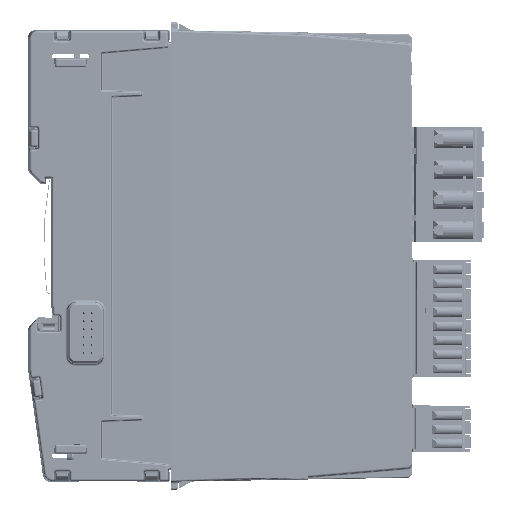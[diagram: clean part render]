
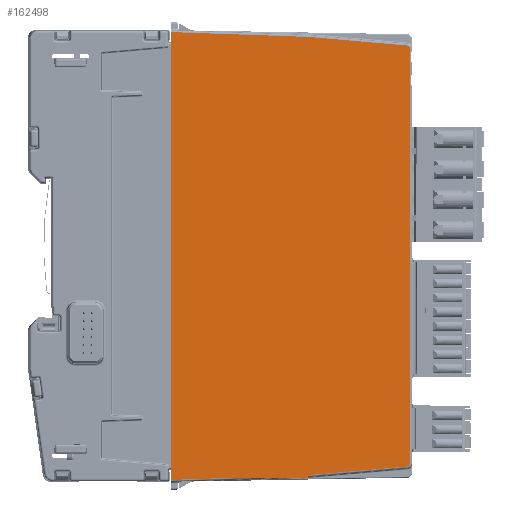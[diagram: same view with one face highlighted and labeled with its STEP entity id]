
A CAD part, left-side view. The second image highlights one B-rep face of the part: STEP entity #162498.
In plain terms, the highlighted planar face has unit normal (-1, -0.018, 0).
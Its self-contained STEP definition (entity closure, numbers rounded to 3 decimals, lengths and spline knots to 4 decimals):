
#15553=FACE_OUTER_BOUND('',#24590,.T.);
#24590=EDGE_LOOP('',(#136945,#136946,#136947,#136948,#136949,#136950,#136951,
#136952,#136953,#136954,#136955,#136956,#136957));
#40469=LINE('',#277757,#56843);
#40482=LINE('',#277829,#56856);
#40539=LINE('',#278057,#56913);
#40856=LINE('',#279281,#57230);
#40857=LINE('',#279283,#57231);
#40858=LINE('',#279287,#57232);
#40859=LINE('',#279291,#57233);
#40860=LINE('',#279293,#57234);
#40861=LINE('',#279295,#57235);
#40862=LINE('',#279297,#57236);
#40863=LINE('',#279298,#57237);
#56843=VECTOR('',#213915,0.3937);
#56856=VECTOR('',#213956,0.3937);
#56913=VECTOR('',#214151,39.3701);
#57230=VECTOR('',#214876,39.3701);
#57231=VECTOR('',#214877,39.3701);
#57232=VECTOR('',#214880,39.3701);
#57233=VECTOR('',#214883,39.3701);
#57234=VECTOR('',#214884,39.3701);
#57235=VECTOR('',#214885,39.3701);
#57236=VECTOR('',#214886,39.3701);
#57237=VECTOR('',#214887,39.3701);
#59600=ELLIPSE('',#174981,0.0315,0.0315);
#59601=ELLIPSE('',#174982,0.0315,0.0315);
#72626=VERTEX_POINT('',#277753);
#72628=VERTEX_POINT('',#277756);
#72650=VERTEX_POINT('',#277824);
#72708=VERTEX_POINT('',#278056);
#73023=VERTEX_POINT('',#279280);
#73024=VERTEX_POINT('',#279282);
#73025=VERTEX_POINT('',#279284);
#73026=VERTEX_POINT('',#279286);
#73027=VERTEX_POINT('',#279288);
#73028=VERTEX_POINT('',#279290);
#73029=VERTEX_POINT('',#279292);
#73030=VERTEX_POINT('',#279294);
#73031=VERTEX_POINT('',#279296);
#93962=EDGE_CURVE('',#72626,#72628,#40469,.T.);
#93989=EDGE_CURVE('',#72628,#72650,#40482,.T.);
#94082=EDGE_CURVE('',#72708,#72650,#40539,.T.);
#94531=EDGE_CURVE('',#72626,#73023,#40856,.T.);
#94532=EDGE_CURVE('',#73023,#73024,#40857,.T.);
#94533=EDGE_CURVE('',#73024,#73025,#59600,.T.);
#94534=EDGE_CURVE('',#73025,#73026,#40858,.T.);
#94535=EDGE_CURVE('',#73026,#73027,#59601,.T.);
#94536=EDGE_CURVE('',#73027,#73028,#40859,.T.);
#94537=EDGE_CURVE('',#73028,#73029,#40860,.T.);
#94538=EDGE_CURVE('',#73029,#73030,#40861,.T.);
#94539=EDGE_CURVE('',#73031,#73030,#40862,.T.);
#94540=EDGE_CURVE('',#73031,#72708,#40863,.T.);
#136945=ORIENTED_EDGE('',*,*,#94531,.T.);
#136946=ORIENTED_EDGE('',*,*,#94532,.T.);
#136947=ORIENTED_EDGE('',*,*,#94533,.T.);
#136948=ORIENTED_EDGE('',*,*,#94534,.T.);
#136949=ORIENTED_EDGE('',*,*,#94535,.T.);
#136950=ORIENTED_EDGE('',*,*,#94536,.T.);
#136951=ORIENTED_EDGE('',*,*,#94537,.T.);
#136952=ORIENTED_EDGE('',*,*,#94538,.T.);
#136953=ORIENTED_EDGE('',*,*,#94539,.F.);
#136954=ORIENTED_EDGE('',*,*,#94540,.T.);
#136955=ORIENTED_EDGE('',*,*,#94082,.T.);
#136956=ORIENTED_EDGE('',*,*,#93989,.F.);
#136957=ORIENTED_EDGE('',*,*,#93962,.F.);
#146142=PLANE('',#174980);
#162498=ADVANCED_FACE('',(#15553),#146142,.T.);
#174980=AXIS2_PLACEMENT_3D('',#279279,#214874,#214875);
#174981=AXIS2_PLACEMENT_3D('',#279285,#214878,#214879);
#174982=AXIS2_PLACEMENT_3D('',#279289,#214881,#214882);
#213915=DIRECTION('',(0.,0.,-1.));
#213956=DIRECTION('',(-0.017,1.,0.));
#214151=DIRECTION('',(0.017,-0.999,0.035));
#214874=DIRECTION('center_axis',(-1.,-0.017,
0.));
#214875=DIRECTION('ref_axis',(-0.017,1.,0.));
#214876=DIRECTION('',(0.017,-0.999,0.035));
#214877=DIRECTION('',(0.017,-0.996,0.087));
#214878=DIRECTION('center_axis',(-1.,-0.017,
0.));
#214879=DIRECTION('ref_axis',(0.017,-1.,0.));
#214880=DIRECTION('',(0.,0.,1.));
#214881=DIRECTION('center_axis',(-1.,-0.017,
0.));
#214882=DIRECTION('ref_axis',(0.017,-1.,0.));
#214883=DIRECTION('',(-0.017,0.996,0.087));
#214884=DIRECTION('',(-0.017,0.999,0.035));
#214885=DIRECTION('',(0.,0.,-1.));
#214886=DIRECTION('',(0.,0.,1.));
#214887=DIRECTION('',(0.,0.,-1.));
#277753=CARTESIAN_POINT('',(0.0005,-2.2096,-4.1958));
#277756=CARTESIAN_POINT('',(0.0005,-2.2096,-4.2206));
#277757=CARTESIAN_POINT('',(0.0005,-2.2096,-3.155));
#277824=CARTESIAN_POINT('',(-0.0119,-1.4997,-4.2206));
#277829=CARTESIAN_POINT('',(-0.0131,-1.4351,-4.2206));
#278056=CARTESIAN_POINT('',(-0.0227,-0.8827,-4.2421));
#278057=CARTESIAN_POINT('',(-0.0282,-0.5654,-4.2532));
#279279=CARTESIAN_POINT('Origin',(-0.0296,-0.489,
-2.0669));
#279280=CARTESIAN_POINT('',(0.0007,-2.2205,-4.1954));
#279281=CARTESIAN_POINT('',(-0.0282,-0.5654,-4.2532));
#279282=CARTESIAN_POINT('',(0.0174,-3.1772,-4.1117));
#279283=CARTESIAN_POINT('',(-0.0261,-0.6869,-4.3296));
#279284=CARTESIAN_POINT('',(0.0179,-3.2059,-4.0803));
#279285=CARTESIAN_POINT('Origin',(0.0173,-3.1744,
-4.0803));
#279286=CARTESIAN_POINT('',(0.0179,-3.2059,-0.0535));
#279287=CARTESIAN_POINT('',(0.0179,-3.2059,-0.0535));
#279288=CARTESIAN_POINT('',(0.0174,-3.1772,-0.0221));
#279289=CARTESIAN_POINT('Origin',(0.0173,-3.1744,
-0.0535));
#279290=CARTESIAN_POINT('',(0.0007,-2.2205,0.0616));
#279291=CARTESIAN_POINT('',(-0.0261,-0.6869,0.1957));
#279292=CARTESIAN_POINT('',(-0.0227,-0.8827,0.1083));
#279293=CARTESIAN_POINT('',(-0.0282,-0.5654,0.1194));
#279294=CARTESIAN_POINT('',(-0.0227,-0.8827,-0.0312));
#279295=CARTESIAN_POINT('',(-0.0227,-0.8827,0.128));
#279296=CARTESIAN_POINT('',(-0.0227,-0.8827,-4.1027));
#279297=CARTESIAN_POINT('',(-0.0227,-0.8827,-7.5932));
#279298=CARTESIAN_POINT('',(-0.0227,-0.8827,0.128));
